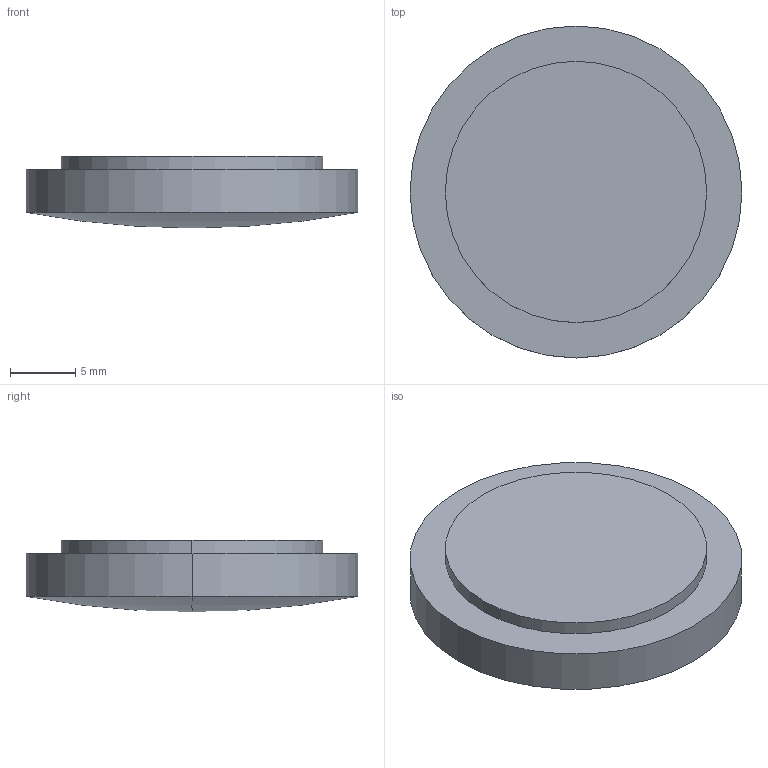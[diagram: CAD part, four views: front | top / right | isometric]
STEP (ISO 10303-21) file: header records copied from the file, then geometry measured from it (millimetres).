
FILE_DESCRIPTION(('STEP AP214'),'1');
FILE_NAME('LL-25-100.STEP','2020-03-09T17:41:07',(' '),(' '),'Spatial InterOp 3D',' ',' ');
FILE_SCHEMA(('AUTOMOTIVE_DESIGN { 1 0 10303 214 1 1 1 1 }'));
Length unit declared in the file: millimetre
Products named in the file (1): 1
Bounding box: 25.4 x 25.4 x 5.5 mm (x, y, z)
Volume: 2293.8 mm3; surface area: 1973.2 mm2
Topology: 2 solids, 2 shells, 9 faces, 16 edges, 9 vertices
Faces by surface type: cylinder 4, plane 3, sphere 2
Entity records: 229 total; most frequent: DIRECTION 46, CARTESIAN_POINT 34, ORIENTED_EDGE 28, AXIS2_PLACEMENT_3D 21, EDGE_CURVE 14, CIRCLE 10, ADVANCED_FACE 9, FACE_OUTER_BOUND 9
